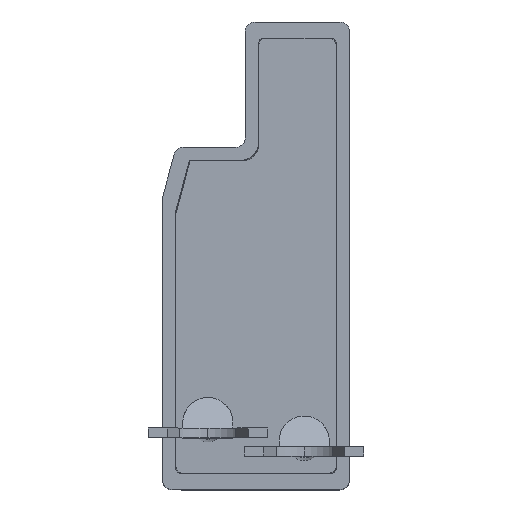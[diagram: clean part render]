
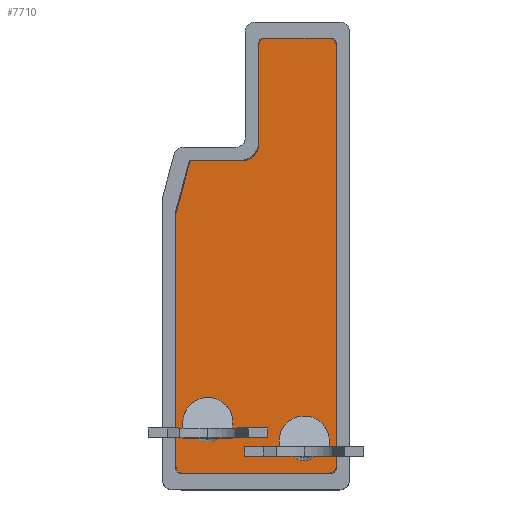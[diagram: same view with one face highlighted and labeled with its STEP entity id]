
A CAD part, top view. The second image highlights one B-rep face of the part: STEP entity #7710.
In plain terms, the highlighted planar face has unit normal (0, 0, 1).
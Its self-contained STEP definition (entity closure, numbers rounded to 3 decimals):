
#41 = CARTESIAN_POINT ( 'NONE',  ( 4.153, 10.925, 18.5 ) ) ;
#102 = CARTESIAN_POINT ( 'NONE',  ( -0.7, 4.928, 18.5 ) ) ;
#239 = DIRECTION ( 'NONE',  ( 0., -1., 0. ) ) ;
#407 = ORIENTED_EDGE ( 'NONE', *, *, #9669, .T. ) ;
#424 = CARTESIAN_POINT ( 'NONE',  ( 3.984, 11.24, 18.5 ) ) ;
#450 = VECTOR ( 'NONE', #9414, 1000. ) ;
#563 = CARTESIAN_POINT ( 'NONE',  ( -4.115, -11.109, 18.5 ) ) ;
#628 = FACE_OUTER_BOUND ( 'NONE', #8523, .T. ) ;
#640 = LINE ( 'NONE', #8499, #4297 ) ;
#671 = LINE ( 'NONE', #5603, #8313 ) ;
#979 = LINE ( 'NONE', #12516, #8693 ) ;
#1052 = CARTESIAN_POINT ( 'NONE',  ( 3.8, -11.278, 18.5 ) ) ;
#1342 = CARTESIAN_POINT ( 'NONE',  ( 0.04, 5.348, 18.5 ) ) ;
#1444 = CARTESIAN_POINT ( 'NONE',  ( -3.8, -11.278, 18.5 ) ) ;
#1570 = CARTESIAN_POINT ( 'NONE',  ( 3.893, -11.278, 18.5 ) ) ;
#1690 = DIRECTION ( 'NONE',  ( 0., 0., 1. ) ) ;
#1736 = EDGE_CURVE ( 'NONE', #2797, #2604, #4593, .T. ) ;
#1970 = VERTEX_POINT ( 'NONE', #9995 ) ;
#2174 = CARTESIAN_POINT ( 'NONE',  ( 0.125, 5.553, 18.5 ) ) ;
#2414 = DIRECTION ( 'NONE',  ( 0., -1., 0. ) ) ;
#2448 = LINE ( 'NONE', #8089, #11778 ) ;
#2604 = VERTEX_POINT ( 'NONE', #6334 ) ;
#2619 = CARTESIAN_POINT ( 'NONE',  ( -3.417, 4.928, 18.5 ) ) ;
#2744 = CARTESIAN_POINT ( 'NONE',  ( 4.153, -10.925, 18.5 ) ) ;
#2797 = VERTEX_POINT ( 'NONE', #9656 ) ;
#2866 = ORIENTED_EDGE ( 'NONE', *, *, #6613, .T. ) ;
#2965 = VERTEX_POINT ( 'NONE', #8297 ) ;
#2980 = ORIENTED_EDGE ( 'NONE', *, *, #10734, .T. ) ;
#3338 = VERTEX_POINT ( 'NONE', #102 ) ;
#3400 = CARTESIAN_POINT ( 'NONE',  ( -4.153, -10.925, 18.5 ) ) ;
#3406 = CARTESIAN_POINT ( 'NONE',  ( 4.153, -11.018, 18.5 ) ) ;
#3415 = EDGE_CURVE ( 'NONE', #6539, #2965, #4995, .T. ) ;
#3486 = VECTOR ( 'NONE', #11204, 1000. ) ;
#3628 = EDGE_CURVE ( 'NONE', #3338, #12015, #979, .T. ) ;
#3932 = ORIENTED_EDGE ( 'NONE', *, *, #6676, .T. ) ;
#4217 = DIRECTION ( 'NONE',  ( -0.259, -0.966, 0. ) ) ;
#4297 = VECTOR ( 'NONE', #2414, 1000. ) ;
#4460 = B_SPLINE_CURVE_WITH_KNOTS ( 'NONE', 3,
 ( #8976, #11956, #2174, #1342, #10112, #5026, #9989, #5220, #10817, #5285 ),
 .UNSPECIFIED., .F., .F.,
 ( 4, 2, 2, 2, 4 ),
 ( 0., 0., 0.001, 0.001, 0.001 ),
 .UNSPECIFIED. ) ;
#4588 = ORIENTED_EDGE ( 'NONE', *, *, #3415, .T. ) ;
#4593 = B_SPLINE_CURVE_WITH_KNOTS ( 'NONE', 3,
 ( #3400, #10149, #563, #5193, #8229, #1444 ),
 .UNSPECIFIED., .F., .F.,
 ( 4, 2, 4 ),
 ( 0., 0., 0.001 ),
 .UNSPECIFIED. ) ;
#4677 = DIRECTION ( 'NONE',  ( 1., 0., 0. ) ) ;
#4847 = CARTESIAN_POINT ( 'NONE',  ( 0.147, 10.925, 18.5 ) ) ;
#4995 = B_SPLINE_CURVE_WITH_KNOTS ( 'NONE', 3,
 ( #8924, #5041, #5236, #424, #8082, #11972 ),
 .UNSPECIFIED., .F., .F.,
 ( 4, 2, 4 ),
 ( 0., 0., 0.001 ),
 .UNSPECIFIED. ) ;
#5026 = CARTESIAN_POINT ( 'NONE',  ( -0.179, 5.097, 18.5 ) ) ;
#5041 = CARTESIAN_POINT ( 'NONE',  ( 4.153, 11.018, 18.5 ) ) ;
#5063 = VERTEX_POINT ( 'NONE', #5074 ) ;
#5074 = CARTESIAN_POINT ( 'NONE',  ( -4.153, 2.182, 18.5 ) ) ;
#5193 = CARTESIAN_POINT ( 'NONE',  ( -3.984, -11.24, 18.5 ) ) ;
#5203 = EDGE_CURVE ( 'NONE', #5616, #6041, #8799, .T. ) ;
#5220 = CARTESIAN_POINT ( 'NONE',  ( -0.478, 4.95, 18.5 ) ) ;
#5236 = CARTESIAN_POINT ( 'NONE',  ( 4.115, 11.109, 18.5 ) ) ;
#5285 = CARTESIAN_POINT ( 'NONE',  ( -0.7, 4.928, 18.5 ) ) ;
#5533 = LINE ( 'NONE', #12326, #450 ) ;
#5603 = CARTESIAN_POINT ( 'NONE',  ( -3.8, -11.278, 18.5 ) ) ;
#5616 = VERTEX_POINT ( 'NONE', #1052 ) ;
#5739 = ORIENTED_EDGE ( 'NONE', *, *, #5203, .T. ) ;
#5796 = CARTESIAN_POINT ( 'NONE',  ( 0.147, 11.018, 18.5 ) ) ;
#6041 = VERTEX_POINT ( 'NONE', #9431 ) ;
#6334 = CARTESIAN_POINT ( 'NONE',  ( -3.8, -11.278, 18.5 ) ) ;
#6513 = CARTESIAN_POINT ( 'NONE',  ( 3.8, -10.925, 18.5 ) ) ;
#6539 = VERTEX_POINT ( 'NONE', #41 ) ;
#6613 = EDGE_CURVE ( 'NONE', #12015, #5063, #2448, .T. ) ;
#6676 = EDGE_CURVE ( 'NONE', #2604, #5616, #671, .T. ) ;
#6709 = AXIS2_PLACEMENT_3D ( 'NONE', #6513, #1690, #4677 ) ;
#6741 = ORIENTED_EDGE ( 'NONE', *, *, #10549, .T. ) ;
#6751 = CARTESIAN_POINT ( 'NONE',  ( 0.316, 11.24, 18.5 ) ) ;
#6758 = VERTEX_POINT ( 'NONE', #12276 ) ;
#6960 = LINE ( 'NONE', #7907, #11607 ) ;
#7106 = ORIENTED_EDGE ( 'NONE', *, *, #9234, .T. ) ;
#7470 = CARTESIAN_POINT ( 'NONE',  ( 4.115, -11.109, 18.5 ) ) ;
#7527 = VERTEX_POINT ( 'NONE', #9138 ) ;
#7699 = DIRECTION ( 'NONE',  ( -1., 0., 0. ) ) ;
#7710 = ADVANCED_FACE ( 'NONE', ( #628 ), #10212, .T. ) ;
#7907 = CARTESIAN_POINT ( 'NONE',  ( -4.153, 2.162, 18.5 ) ) ;
#7919 = ORIENTED_EDGE ( 'NONE', *, *, #8060, .T. ) ;
#8060 = EDGE_CURVE ( 'NONE', #2965, #1970, #5533, .T. ) ;
#8082 = CARTESIAN_POINT ( 'NONE',  ( 3.893, 11.278, 18.5 ) ) ;
#8089 = CARTESIAN_POINT ( 'NONE',  ( -3.447, 4.815, 18.5 ) ) ;
#8229 = CARTESIAN_POINT ( 'NONE',  ( -3.893, -11.278, 18.5 ) ) ;
#8297 = CARTESIAN_POINT ( 'NONE',  ( 3.8, 11.278, 18.5 ) ) ;
#8313 = VECTOR ( 'NONE', #11459, 1000. ) ;
#8315 = ORIENTED_EDGE ( 'NONE', *, *, #1736, .T. ) ;
#8499 = CARTESIAN_POINT ( 'NONE',  ( 0.147, 10.925, 18.5 ) ) ;
#8523 = EDGE_LOOP ( 'NONE', ( #5739, #6741, #4588, #7919, #12532, #7106, #2980, #10417, #2866, #407, #8315, #3932 ) ) ;
#8530 = LINE ( 'NONE', #2744, #3486 ) ;
#8693 = VECTOR ( 'NONE', #7699, 1000. ) ;
#8799 = B_SPLINE_CURVE_WITH_KNOTS ( 'NONE', 3,
 ( #10156, #1570, #9317, #7470, #3406, #9452 ),
 .UNSPECIFIED., .F., .F.,
 ( 4, 2, 4 ),
 ( 0., 0., 0.001 ),
 .UNSPECIFIED. ) ;
#8924 = CARTESIAN_POINT ( 'NONE',  ( 4.153, 10.925, 18.5 ) ) ;
#8976 = CARTESIAN_POINT ( 'NONE',  ( 0.147, 5.775, 18.5 ) ) ;
#9138 = CARTESIAN_POINT ( 'NONE',  ( 0.147, 10.925, 18.5 ) ) ;
#9234 = EDGE_CURVE ( 'NONE', #7527, #6758, #640, .T. ) ;
#9317 = CARTESIAN_POINT ( 'NONE',  ( 3.984, -11.24, 18.5 ) ) ;
#9414 = DIRECTION ( 'NONE',  ( -1., 0., 0. ) ) ;
#9427 = CARTESIAN_POINT ( 'NONE',  ( 0.185, 11.109, 18.5 ) ) ;
#9431 = CARTESIAN_POINT ( 'NONE',  ( 4.153, -10.925, 18.5 ) ) ;
#9452 = CARTESIAN_POINT ( 'NONE',  ( 4.153, -10.925, 18.5 ) ) ;
#9656 = CARTESIAN_POINT ( 'NONE',  ( -4.153, -10.925, 18.5 ) ) ;
#9669 = EDGE_CURVE ( 'NONE', #5063, #2797, #6960, .T. ) ;
#9899 = EDGE_CURVE ( 'NONE', #1970, #7527, #12035, .T. ) ;
#9989 = CARTESIAN_POINT ( 'NONE',  ( -0.273, 5.035, 18.5 ) ) ;
#9995 = CARTESIAN_POINT ( 'NONE',  ( 0.5, 11.278, 18.5 ) ) ;
#10112 = CARTESIAN_POINT ( 'NONE',  ( -0.022, 5.254, 18.5 ) ) ;
#10149 = CARTESIAN_POINT ( 'NONE',  ( -4.153, -11.018, 18.5 ) ) ;
#10156 = CARTESIAN_POINT ( 'NONE',  ( 3.8, -11.278, 18.5 ) ) ;
#10212 = PLANE ( 'NONE',  #6709 ) ;
#10417 = ORIENTED_EDGE ( 'NONE', *, *, #3628, .T. ) ;
#10549 = EDGE_CURVE ( 'NONE', #6041, #6539, #8530, .T. ) ;
#10625 = CARTESIAN_POINT ( 'NONE',  ( 0.407, 11.278, 18.5 ) ) ;
#10734 = EDGE_CURVE ( 'NONE', #6758, #3338, #4460, .T. ) ;
#10817 = CARTESIAN_POINT ( 'NONE',  ( -0.589, 4.928, 18.5 ) ) ;
#11204 = DIRECTION ( 'NONE',  ( 0., 1., 0. ) ) ;
#11459 = DIRECTION ( 'NONE',  ( 1., 0., 0. ) ) ;
#11584 = CARTESIAN_POINT ( 'NONE',  ( 0.5, 11.278, 18.5 ) ) ;
#11607 = VECTOR ( 'NONE', #239, 1000. ) ;
#11778 = VECTOR ( 'NONE', #4217, 1000. ) ;
#11956 = CARTESIAN_POINT ( 'NONE',  ( 0.147, 5.664, 18.5 ) ) ;
#11972 = CARTESIAN_POINT ( 'NONE',  ( 3.8, 11.278, 18.5 ) ) ;
#12015 = VERTEX_POINT ( 'NONE', #2619 ) ;
#12035 = B_SPLINE_CURVE_WITH_KNOTS ( 'NONE', 3,
 ( #11584, #10625, #6751, #9427, #5796, #4847 ),
 .UNSPECIFIED., .F., .F.,
 ( 4, 2, 4 ),
 ( 0., 0., 0.001 ),
 .UNSPECIFIED. ) ;
#12276 = CARTESIAN_POINT ( 'NONE',  ( 0.147, 5.775, 18.5 ) ) ;
#12326 = CARTESIAN_POINT ( 'NONE',  ( 3.8, 11.278, 18.5 ) ) ;
#12516 = CARTESIAN_POINT ( 'NONE',  ( -0.7, 4.928, 18.5 ) ) ;
#12532 = ORIENTED_EDGE ( 'NONE', *, *, #9899, .T. ) ;
